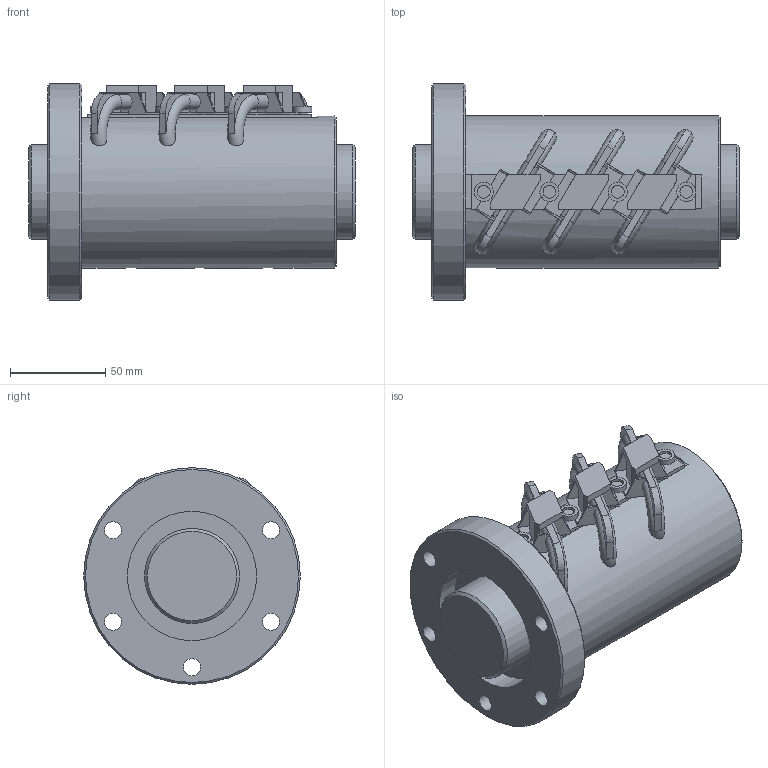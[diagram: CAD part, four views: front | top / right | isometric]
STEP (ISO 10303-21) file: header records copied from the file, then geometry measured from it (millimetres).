
FILE_DESCRIPTION(/* description */ ('STEP AP203'),/* implementation_level */ '2;1');
FILE_NAME(/* name */ 'HBN5012-7.5RRG2+172LC0(0G200)_rev',/* time_stamp */ '2024-07-04T08:17:57+02:00',/* author */ ('License CC BY-ND 4.0'),/* organization */ ('CADENAS'),/* preprocessor_version */ 'ST-DEVELOPER v19.3',/* originating_system */ 'PARTsolutions',/* authorisation */ ' ');
FILE_SCHEMA (('CONFIG_CONTROL_DESIGN'));
Length unit declared in the file: millimetre
Products named in the file (3): HBN5012-7.5RRG2+172LC0(0G200)_rev; HBN5012-7.5 RRG1+172L C0(01000) Shaft; HBN5012-7.5 RRG1+162L C0(0100) Nut
Assembly tree (2 placements, depth 2):
  HBN5012-7.5RRG2+172LC0(0G200)_rev
    HBN5012-7.5 RRG1+172L C0(01000) Shaft
    HBN5012-7.5 RRG1+162L C0(0100) Nut
Bounding box: 172 x 114 x 114 mm (x, y, z)
Volume: 879517.3 mm3; surface area: 130994.3 mm2
Topology: 2 solids, 2 shells, 239 faces, 701 edges, 445 vertices
Faces by surface type: plane 187, cylinder 35, cone 11, torus 6
Full cylindrical faces by diameter (mm): 3.333 x3, 4.917 x3, 6.667 x4, 9 x5, 10 x4, 50 x2, 68 x2, 80 x1, 114 x1
Entity records: 7810 total; most frequent: CARTESIAN_POINT 1537, ORIENTED_EDGE 1278, DIRECTION 1216, EDGE_CURVE 639, LINE 492, VECTOR 492, VERTEX_POINT 428, AXIS2_PLACEMENT_3D 362
